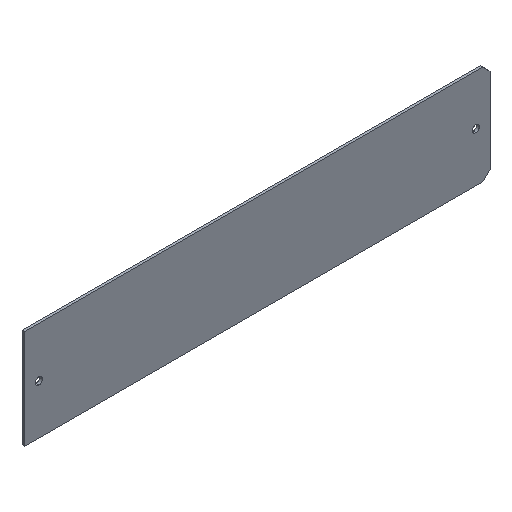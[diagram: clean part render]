
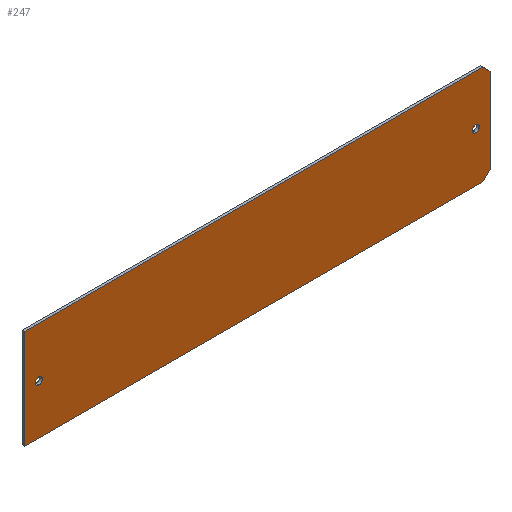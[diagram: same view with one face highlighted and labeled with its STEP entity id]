
A CAD part, isometric view. The second image highlights one B-rep face of the part: STEP entity #247.
In plain terms, the highlighted planar face has unit normal (0, -1, 0).
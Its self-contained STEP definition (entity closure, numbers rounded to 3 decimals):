
#2 = ORIENTED_EDGE ( 'NONE', *, *, #118, .F. ) ;
#6 = CARTESIAN_POINT ( 'NONE',  ( 66., 0., 12.1 ) ) ;
#14 = ORIENTED_EDGE ( 'NONE', *, *, #293, .T. ) ;
#18 = EDGE_LOOP ( 'NONE', ( #308, #123 ) ) ;
#23 = DIRECTION ( 'NONE',  ( 0., 0., 1. ) ) ;
#24 = EDGE_CURVE ( 'NONE', #411, #356, #149, .T. ) ;
#25 = DIRECTION ( 'NONE',  ( 0., 0., 1. ) ) ;
#31 = CARTESIAN_POINT ( 'NONE',  ( 64., 0., -14.1 ) ) ;
#32 = DIRECTION ( 'NONE',  ( 0., 1., 0. ) ) ;
#35 = VERTEX_POINT ( 'NONE', #36 ) ;
#36 = CARTESIAN_POINT ( 'NONE',  ( 66., 0., 12.1 ) ) ;
#39 = CARTESIAN_POINT ( 'NONE',  ( 0., 0., 0. ) ) ;
#49 = VERTEX_POINT ( 'NONE', #96 ) ;
#59 = CIRCLE ( 'NONE', #362, 1. ) ;
#74 = DIRECTION ( 'NONE',  ( 0., 1., 0. ) ) ;
#83 = AXIS2_PLACEMENT_3D ( 'NONE', #39, #74, #358 ) ;
#85 = DIRECTION ( 'NONE',  ( 0., 1., 0. ) ) ;
#87 = VERTEX_POINT ( 'NONE', #31 ) ;
#88 = VECTOR ( 'NONE', #354, 1000. ) ;
#94 = EDGE_CURVE ( 'NONE', #306, #346, #117, .T. ) ;
#95 = CARTESIAN_POINT ( 'NONE',  ( -62., 0., -1. ) ) ;
#96 = CARTESIAN_POINT ( 'NONE',  ( 62., 0., 1. ) ) ;
#97 = DIRECTION ( 'NONE',  ( 0., 0., 1. ) ) ;
#103 = VECTOR ( 'NONE', #410, 1000. ) ;
#106 = VERTEX_POINT ( 'NONE', #319 ) ;
#110 = EDGE_CURVE ( 'NONE', #87, #106, #384, .T. ) ;
#114 = CARTESIAN_POINT ( 'NONE',  ( -62., 0., 0. ) ) ;
#117 = LINE ( 'NONE', #350, #250 ) ;
#118 = EDGE_CURVE ( 'NONE', #35, #106, #357, .T. ) ;
#119 = CARTESIAN_POINT ( 'NONE',  ( 64., 0., 14.1 ) ) ;
#121 = CARTESIAN_POINT ( 'NONE',  ( 66., 0., -14.1 ) ) ;
#123 = ORIENTED_EDGE ( 'NONE', *, *, #187, .T. ) ;
#147 = FACE_BOUND ( 'NONE', #18, .T. ) ;
#149 = CIRCLE ( 'NONE', #374, 1. ) ;
#151 = FACE_BOUND ( 'NONE', #215, .T. ) ;
#152 = ORIENTED_EDGE ( 'NONE', *, *, #94, .F. ) ;
#153 = DIRECTION ( 'NONE',  ( 1., 0., 0. ) ) ;
#154 = CARTESIAN_POINT ( 'NONE',  ( -66., 0., -14.1 ) ) ;
#162 = DIRECTION ( 'NONE',  ( 0., 0., 1. ) ) ;
#163 = EDGE_CURVE ( 'NONE', #87, #321, #216, .T. ) ;
#164 = FACE_OUTER_BOUND ( 'NONE', #189, .T. ) ;
#165 = VECTOR ( 'NONE', #312, 1000. ) ;
#168 = EDGE_CURVE ( 'NONE', #356, #411, #59, .T. ) ;
#178 = VECTOR ( 'NONE', #192, 1000. ) ;
#180 = CARTESIAN_POINT ( 'NONE',  ( -66., 0., -14.1 ) ) ;
#182 = DIRECTION ( 'NONE',  ( 0., 1., 0. ) ) ;
#183 = VECTOR ( 'NONE', #261, 1000. ) ;
#185 = ORIENTED_EDGE ( 'NONE', *, *, #163, .F. ) ;
#186 = CARTESIAN_POINT ( 'NONE',  ( -62., 0., 0. ) ) ;
#187 = EDGE_CURVE ( 'NONE', #211, #49, #336, .T. ) ;
#189 = EDGE_LOOP ( 'NONE', ( #2, #14, #152, #240, #185, #291 ) ) ;
#192 = DIRECTION ( 'NONE',  ( -0.707, 0., 0.707 ) ) ;
#199 = PLANE ( 'NONE',  #83 ) ;
#211 = VERTEX_POINT ( 'NONE', #251 ) ;
#215 = EDGE_LOOP ( 'NONE', ( #274, #398 ) ) ;
#216 = LINE ( 'NONE', #345, #103 ) ;
#217 = LINE ( 'NONE', #180, #165 ) ;
#221 = EDGE_CURVE ( 'NONE', #321, #306, #217, .T. ) ;
#227 = CARTESIAN_POINT ( 'NONE',  ( 64., 0., -14.1 ) ) ;
#240 = ORIENTED_EDGE ( 'NONE', *, *, #221, .F. ) ;
#247 = ADVANCED_FACE ( 'NONE', ( #151, #147, #164 ), #199, .F. ) ;
#250 = VECTOR ( 'NONE', #153, 1000. ) ;
#251 = CARTESIAN_POINT ( 'NONE',  ( 62., 0., -1. ) ) ;
#261 = DIRECTION ( 'NONE',  ( 0., 0., -1. ) ) ;
#269 = CARTESIAN_POINT ( 'NONE',  ( -62., 0., 1. ) ) ;
#274 = ORIENTED_EDGE ( 'NONE', *, *, #24, .T. ) ;
#291 = ORIENTED_EDGE ( 'NONE', *, *, #110, .T. ) ;
#293 = EDGE_CURVE ( 'NONE', #35, #346, #387, .T. ) ;
#306 = VERTEX_POINT ( 'NONE', #318 ) ;
#308 = ORIENTED_EDGE ( 'NONE', *, *, #364, .T. ) ;
#309 = AXIS2_PLACEMENT_3D ( 'NONE', #382, #32, #97 ) ;
#310 = CARTESIAN_POINT ( 'NONE',  ( 62., 0., 0. ) ) ;
#312 = DIRECTION ( 'NONE',  ( 0., 0., 1. ) ) ;
#318 = CARTESIAN_POINT ( 'NONE',  ( -66., 0., 14.1 ) ) ;
#319 = CARTESIAN_POINT ( 'NONE',  ( 66., 0., -12.1 ) ) ;
#321 = VERTEX_POINT ( 'NONE', #154 ) ;
#326 = CIRCLE ( 'NONE', #309, 1. ) ;
#333 = AXIS2_PLACEMENT_3D ( 'NONE', #310, #85, #23 ) ;
#336 = CIRCLE ( 'NONE', #333, 1. ) ;
#345 = CARTESIAN_POINT ( 'NONE',  ( -66., 0., -14.1 ) ) ;
#346 = VERTEX_POINT ( 'NONE', #119 ) ;
#350 = CARTESIAN_POINT ( 'NONE',  ( -66., 0., 14.1 ) ) ;
#354 = DIRECTION ( 'NONE',  ( 0.707, 0., 0.707 ) ) ;
#356 = VERTEX_POINT ( 'NONE', #95 ) ;
#357 = LINE ( 'NONE', #121, #183 ) ;
#358 = DIRECTION ( 'NONE',  ( 0., 0., 1. ) ) ;
#362 = AXIS2_PLACEMENT_3D ( 'NONE', #114, #182, #25 ) ;
#364 = EDGE_CURVE ( 'NONE', #49, #211, #326, .T. ) ;
#374 = AXIS2_PLACEMENT_3D ( 'NONE', #186, #386, #162 ) ;
#382 = CARTESIAN_POINT ( 'NONE',  ( 62., 0., 0. ) ) ;
#384 = LINE ( 'NONE', #227, #88 ) ;
#386 = DIRECTION ( 'NONE',  ( 0., 1., 0. ) ) ;
#387 = LINE ( 'NONE', #6, #178 ) ;
#398 = ORIENTED_EDGE ( 'NONE', *, *, #168, .T. ) ;
#410 = DIRECTION ( 'NONE',  ( -1., 0., 0. ) ) ;
#411 = VERTEX_POINT ( 'NONE', #269 ) ;
